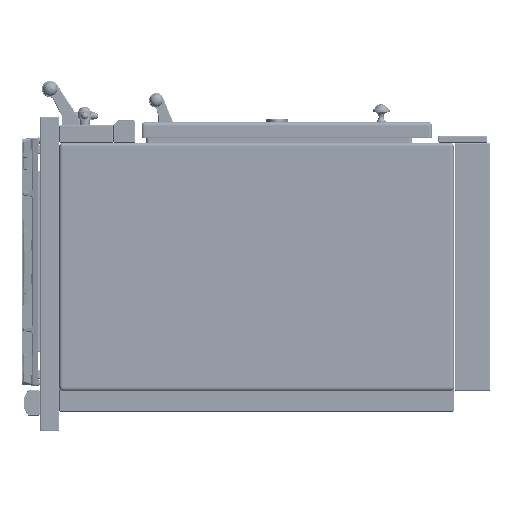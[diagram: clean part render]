
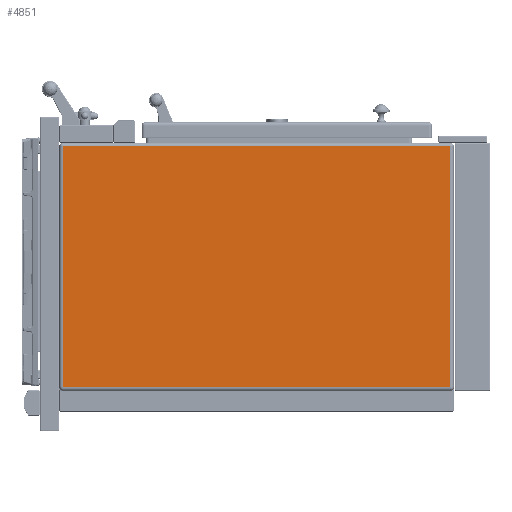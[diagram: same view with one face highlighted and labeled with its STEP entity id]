
A CAD part, left-side view. The second image highlights one B-rep face of the part: STEP entity #4851.
In plain terms, the highlighted planar face has unit normal (-1, 0, 0).
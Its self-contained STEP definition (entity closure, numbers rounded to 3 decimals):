
#473=DIRECTION('',(0.,1.,0.));
#474=VECTOR('',#473,801.);
#475=CARTESIAN_POINT('',(-900.,82.,249.));
#476=LINE('',#475,#474);
#477=DIRECTION('',(0.,0.,1.));
#478=VECTOR('',#477,498.);
#479=CARTESIAN_POINT('',(-900.,82.,-249.));
#480=LINE('',#479,#478);
#481=DIRECTION('',(0.,-1.,0.));
#482=VECTOR('',#481,801.);
#483=CARTESIAN_POINT('',(-900.,883.,-249.));
#484=LINE('',#483,#482);
#485=DIRECTION('',(0.,0.,-1.));
#486=VECTOR('',#485,498.);
#487=CARTESIAN_POINT('',(-900.,883.,249.));
#488=LINE('',#487,#486);
#3319=CARTESIAN_POINT('',(-900.,82.,249.));
#3320=CARTESIAN_POINT('',(-900.,883.,249.));
#3321=VERTEX_POINT('',#3319);
#3322=VERTEX_POINT('',#3320);
#3323=CARTESIAN_POINT('',(-900.,82.,-249.));
#3324=VERTEX_POINT('',#3323);
#3341=CARTESIAN_POINT('',(-900.,883.,-249.));
#3342=VERTEX_POINT('',#3341);
#4838=CARTESIAN_POINT('',(-900.,0.,0.));
#4839=DIRECTION('',(1.,0.,0.));
#4840=DIRECTION('',(0.,0.,-1.));
#4841=AXIS2_PLACEMENT_3D('',#4838,#4839,#4840);
#4842=PLANE('',#4841);
#4843=ORIENTED_EDGE('',*,*,#4783,.F.);
#4844=ORIENTED_EDGE('',*,*,#4821,.F.);
#4846=ORIENTED_EDGE('',*,*,#4845,.F.);
#4848=ORIENTED_EDGE('',*,*,#4847,.F.);
#4849=EDGE_LOOP('',(#4843,#4844,#4846,#4848));
#4850=FACE_OUTER_BOUND('',#4849,.F.);
#4783=EDGE_CURVE('',#3321,#3322,#476,.T.);
#4821=EDGE_CURVE('',#3324,#3321,#480,.T.);
#4845=EDGE_CURVE('',#3342,#3324,#484,.T.);
#4847=EDGE_CURVE('',#3322,#3342,#488,.T.);
#4851=ADVANCED_FACE('',(#4850),#4842,.F.);
